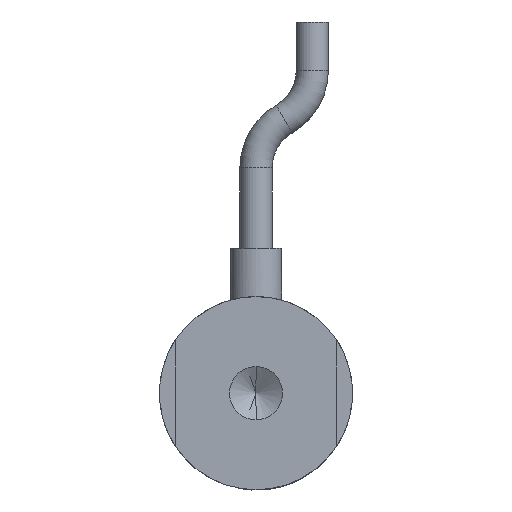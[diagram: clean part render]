
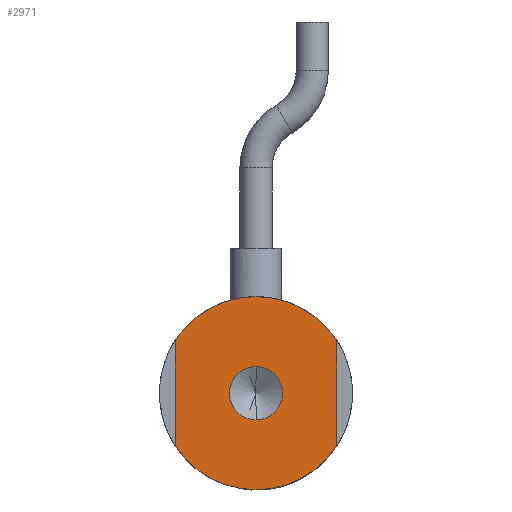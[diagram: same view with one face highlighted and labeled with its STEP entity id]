
A CAD part, front view. The second image highlights one B-rep face of the part: STEP entity #2971.
In plain terms, the highlighted planar face has unit normal (0, -1, 0).
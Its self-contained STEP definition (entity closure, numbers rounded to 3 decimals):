
#172 = AXIS2_PLACEMENT_3D ( 'NONE', #13584, #13577, #13542 ) ;
#295 = CARTESIAN_POINT ( 'NONE',  ( -5., 0., 0. ) ) ;
#322 = CARTESIAN_POINT ( 'NONE',  ( 0., 0., 0. ) ) ;
#1920 = VERTEX_POINT ( 'NONE', #5004 ) ;
#2155 = DIRECTION ( 'NONE',  ( 0., 0., 1. ) ) ;
#2971 = ADVANCED_FACE ( 'NONE', ( #31237, #40219 ), #16563, .F. ) ;
#3772 = DIRECTION ( 'NONE',  ( 0., 0., 1. ) ) ;
#5004 = CARTESIAN_POINT ( 'NONE',  ( -5., 0., 3.317 ) ) ;
#5056 = CIRCLE ( 'NONE', #40224, 1.65 ) ;
#7956 = VERTEX_POINT ( 'NONE', #38894 ) ;
#8766 = CIRCLE ( 'NONE', #29763, 6. ) ;
#9176 = DIRECTION ( 'NONE',  ( 0., 0., 1. ) ) ;
#10124 = EDGE_CURVE ( 'NONE', #14028, #21025, #28490, .T. ) ;
#11236 = CARTESIAN_POINT ( 'NONE',  ( 0., 0., 0. ) ) ;
#11466 = VERTEX_POINT ( 'NONE', #17612 ) ;
#11621 = CARTESIAN_POINT ( 'NONE',  ( 0., 0., 6. ) ) ;
#13542 = DIRECTION ( 'NONE',  ( 0., 0., 1. ) ) ;
#13577 = DIRECTION ( 'NONE',  ( 0., 1., 0. ) ) ;
#13584 = CARTESIAN_POINT ( 'NONE',  ( 0., 0., 0. ) ) ;
#14028 = VERTEX_POINT ( 'NONE', #11621 ) ;
#14522 = DIRECTION ( 'NONE',  ( 0., 1., 0. ) ) ;
#14631 = DIRECTION ( 'NONE',  ( 0., 0., -1. ) ) ;
#15710 = CARTESIAN_POINT ( 'NONE',  ( 0., 0., -6. ) ) ;
#15832 = CARTESIAN_POINT ( 'NONE',  ( 0., 0., 0. ) ) ;
#16563 = PLANE ( 'NONE',  #28442 ) ;
#17429 = DIRECTION ( 'NONE',  ( 0., 0., 1. ) ) ;
#17612 = CARTESIAN_POINT ( 'NONE',  ( 0., 0., 1.65 ) ) ;
#18386 = DIRECTION ( 'NONE',  ( 0., 0., -1. ) ) ;
#19199 = DIRECTION ( 'NONE',  ( 0., 0., -1. ) ) ;
#19737 = DIRECTION ( 'NONE',  ( 0., 1., 0. ) ) ;
#19902 = ORIENTED_EDGE ( 'NONE', *, *, #32937, .F. ) ;
#19967 = EDGE_CURVE ( 'NONE', #41849, #7956, #8766, .T. ) ;
#20695 = EDGE_CURVE ( 'NONE', #21025, #35317, #43300, .T. ) ;
#21025 = VERTEX_POINT ( 'NONE', #37216 ) ;
#22026 = CARTESIAN_POINT ( 'NONE',  ( 0., 0., 0. ) ) ;
#22455 = DIRECTION ( 'NONE',  ( 0., 1., 0. ) ) ;
#23381 = ORIENTED_EDGE ( 'NONE', *, *, #20695, .F. ) ;
#23551 = ORIENTED_EDGE ( 'NONE', *, *, #38445, .F. ) ;
#23804 = EDGE_LOOP ( 'NONE', ( #19902, #28218, #33877, #23381, #41408, #40561 ) ) ;
#24075 = DIRECTION ( 'NONE',  ( 0., 1., 0. ) ) ;
#24107 = CIRCLE ( 'NONE', #43000, 1.65 ) ;
#26348 = EDGE_CURVE ( 'NONE', #35317, #41849, #30207, .T. ) ;
#26390 = LINE ( 'NONE', #295, #34169 ) ;
#28218 = ORIENTED_EDGE ( 'NONE', *, *, #19967, .F. ) ;
#28442 = AXIS2_PLACEMENT_3D ( 'NONE', #22026, #14522, #9176 ) ;
#28490 = CIRCLE ( 'NONE', #172, 6. ) ;
#29763 = AXIS2_PLACEMENT_3D ( 'NONE', #322, #24075, #3772 ) ;
#29780 = CIRCLE ( 'NONE', #34552, 6. ) ;
#29938 = AXIS2_PLACEMENT_3D ( 'NONE', #42471, #22455, #2155 ) ;
#30207 = CIRCLE ( 'NONE', #29938, 6. ) ;
#30805 = CARTESIAN_POINT ( 'NONE',  ( 0., 0., -1.65 ) ) ;
#31237 = FACE_BOUND ( 'NONE', #36205, .T. ) ;
#32937 = EDGE_CURVE ( 'NONE', #7956, #1920, #26390, .T. ) ;
#33877 = ORIENTED_EDGE ( 'NONE', *, *, #26348, .F. ) ;
#34169 = VECTOR ( 'NONE', #17429, 1000. ) ;
#34347 = CARTESIAN_POINT ( 'NONE',  ( 5., 0., -3.317 ) ) ;
#34362 = VECTOR ( 'NONE', #18386, 1000. ) ;
#34552 = AXIS2_PLACEMENT_3D ( 'NONE', #39747, #19737, #43088 ) ;
#34639 = DIRECTION ( 'NONE',  ( 0., -1., 0. ) ) ;
#35317 = VERTEX_POINT ( 'NONE', #34347 ) ;
#36205 = EDGE_LOOP ( 'NONE', ( #40840, #23551 ) ) ;
#37216 = CARTESIAN_POINT ( 'NONE',  ( 5., 0., 3.317 ) ) ;
#38445 = EDGE_CURVE ( 'NONE', #11466, #43092, #5056, .T. ) ;
#38894 = CARTESIAN_POINT ( 'NONE',  ( -5., 0., -3.317 ) ) ;
#39196 = DIRECTION ( 'NONE',  ( 0., -1., 0. ) ) ;
#39520 = EDGE_CURVE ( 'NONE', #43092, #11466, #24107, .T. ) ;
#39747 = CARTESIAN_POINT ( 'NONE',  ( 0., 0., 0. ) ) ;
#40219 = FACE_OUTER_BOUND ( 'NONE', #23804, .T. ) ;
#40224 = AXIS2_PLACEMENT_3D ( 'NONE', #11236, #34639, #14631 ) ;
#40561 = ORIENTED_EDGE ( 'NONE', *, *, #40712, .F. ) ;
#40712 = EDGE_CURVE ( 'NONE', #1920, #14028, #29780, .T. ) ;
#40840 = ORIENTED_EDGE ( 'NONE', *, *, #39520, .F. ) ;
#41408 = ORIENTED_EDGE ( 'NONE', *, *, #10124, .F. ) ;
#41774 = CARTESIAN_POINT ( 'NONE',  ( 5., 0., 0. ) ) ;
#41849 = VERTEX_POINT ( 'NONE', #15710 ) ;
#42471 = CARTESIAN_POINT ( 'NONE',  ( 0., 0., 0. ) ) ;
#43000 = AXIS2_PLACEMENT_3D ( 'NONE', #15832, #39196, #19199 ) ;
#43088 = DIRECTION ( 'NONE',  ( 0., 0., 1. ) ) ;
#43092 = VERTEX_POINT ( 'NONE', #30805 ) ;
#43300 = LINE ( 'NONE', #41774, #34362 ) ;
